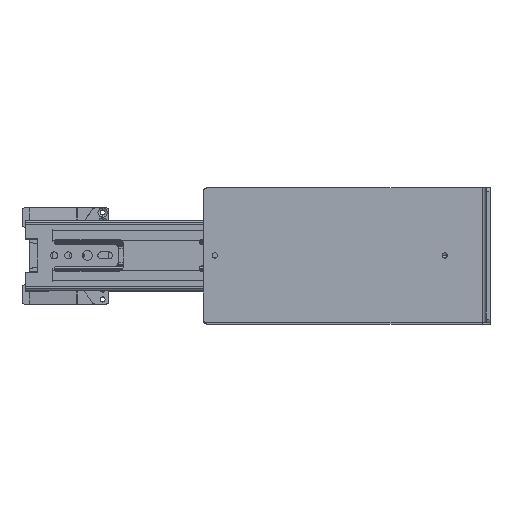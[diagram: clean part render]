
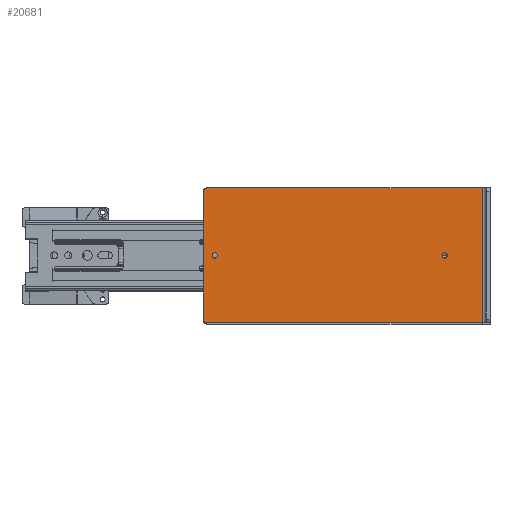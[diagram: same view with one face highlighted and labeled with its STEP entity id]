
A CAD part, top view. The second image highlights one B-rep face of the part: STEP entity #20681.
In plain terms, the highlighted planar face has unit normal (0, 0, 1).
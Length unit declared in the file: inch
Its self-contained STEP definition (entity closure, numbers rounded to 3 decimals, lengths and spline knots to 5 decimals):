
#5471=CARTESIAN_POINT('',(-1.22,1.63425,17.39237));
#5472=DIRECTION('',(0.,0.,1.));
#5473=DIRECTION('',(0.,1.,0.));
#5474=AXIS2_PLACEMENT_3D('',#5471,#5472,#5473);
#5476=DIRECTION('',(1.,0.,0.));
#5477=VECTOR('',#5476,7.05946);
#5478=CARTESIAN_POINT('',(-1.22,1.73425,17.39237));
#5479=LINE('',#5478,#5477);
#5480=DIRECTION('',(0.,1.,0.));
#5481=VECTOR('',#5480,3.4685);
#5482=CARTESIAN_POINT('',(5.83946,-1.73425,17.39237));
#5483=LINE('',#5482,#5481);
#5484=DIRECTION('',(-1.,0.,0.));
#5485=VECTOR('',#5484,7.05946);
#5486=CARTESIAN_POINT('',(5.83946,-1.73425,17.39237));
#5487=LINE('',#5486,#5485);
#5488=CARTESIAN_POINT('',(-1.22,-1.63425,17.39237));
#5489=DIRECTION('',(0.,0.,1.));
#5490=DIRECTION('',(-1.,0.,0.));
#5491=AXIS2_PLACEMENT_3D('',#5488,#5489,#5490);
#5493=DIRECTION('',(0.,1.,0.));
#5494=VECTOR('',#5493,3.2685);
#5495=CARTESIAN_POINT('',(-1.32,-1.63425,17.39237));
#5496=LINE('',#5495,#5494);
#5497=CARTESIAN_POINT('',(4.88,0.,17.39237));
#5498=DIRECTION('',(0.,0.,-1.));
#5499=DIRECTION('',(-1.,0.,0.));
#5500=AXIS2_PLACEMENT_3D('',#5497,#5498,#5499);
#5502=CARTESIAN_POINT('',(4.88,0.,17.39237));
#5503=DIRECTION('',(0.,0.,-1.));
#5504=DIRECTION('',(1.,0.,0.));
#5505=AXIS2_PLACEMENT_3D('',#5502,#5503,#5504);
#5507=CARTESIAN_POINT('',(-1.025,0.,17.39237));
#5508=DIRECTION('',(0.,0.,-1.));
#5509=DIRECTION('',(-1.,0.,0.));
#5510=AXIS2_PLACEMENT_3D('',#5507,#5508,#5509);
#5512=CARTESIAN_POINT('',(-1.025,0.,17.39237));
#5513=DIRECTION('',(0.,0.,-1.));
#5514=DIRECTION('',(1.,0.,0.));
#5515=AXIS2_PLACEMENT_3D('',#5512,#5513,#5514);
#12817=CARTESIAN_POINT('',(5.83946,1.73425,17.39237));
#12819=VERTEX_POINT('',#12817);
#12825=CARTESIAN_POINT('',(5.83946,-1.73425,17.39237));
#12827=VERTEX_POINT('',#12825);
#12880=CARTESIAN_POINT('',(-1.22,1.73425,17.39237));
#12881=VERTEX_POINT('',#12880);
#12882=CARTESIAN_POINT('',(-1.32,1.63425,17.39237));
#12883=VERTEX_POINT('',#12882);
#12888=CARTESIAN_POINT('',(-1.32,-1.63425,17.39237));
#12889=VERTEX_POINT('',#12888);
#12890=CARTESIAN_POINT('',(-1.22,-1.73425,17.39237));
#12891=VERTEX_POINT('',#12890);
#12896=CARTESIAN_POINT('',(4.812,0.,17.39237));
#12897=CARTESIAN_POINT('',(4.948,0.,17.39237));
#12898=VERTEX_POINT('',#12896);
#12899=VERTEX_POINT('',#12897);
#12904=CARTESIAN_POINT('',(-1.093,0.,17.39237));
#12905=CARTESIAN_POINT('',(-0.957,0.,17.39237));
#12906=VERTEX_POINT('',#12904);
#12907=VERTEX_POINT('',#12905);
#20652=CARTESIAN_POINT('',(2.68,0.,17.39237));
#20653=DIRECTION('',(0.,0.,-1.));
#20654=DIRECTION('',(1.,0.,0.));
#20655=AXIS2_PLACEMENT_3D('',#20652,#20653,#20654);
#20656=PLANE('',#20655);
#20658=ORIENTED_EDGE('',*,*,#20657,.F.);
#20660=ORIENTED_EDGE('',*,*,#20659,.T.);
#20662=ORIENTED_EDGE('',*,*,#20661,.F.);
#20664=ORIENTED_EDGE('',*,*,#20663,.T.);
#20665=ORIENTED_EDGE('',*,*,#20645,.F.);
#20666=ORIENTED_EDGE('',*,*,#20516,.T.);
#20667=EDGE_LOOP('',(#20658,#20660,#20662,#20664,#20665,#20666));
#20668=FACE_OUTER_BOUND('',#20667,.F.);
#20670=ORIENTED_EDGE('',*,*,#20669,.F.);
#20672=ORIENTED_EDGE('',*,*,#20671,.F.);
#20673=EDGE_LOOP('',(#20670,#20672));
#20674=FACE_BOUND('',#20673,.F.);
#20676=ORIENTED_EDGE('',*,*,#20675,.F.);
#20678=ORIENTED_EDGE('',*,*,#20677,.F.);
#20679=EDGE_LOOP('',(#20676,#20678));
#20680=FACE_BOUND('',#20679,.F.);
#20681=ADVANCED_FACE('',(#20668,#20674,#20680),#20656,.F.);
#5475=CIRCLE('',#5474,0.1);
#5492=CIRCLE('',#5491,0.1);
#5501=CIRCLE('',#5500,0.068);
#5506=CIRCLE('',#5505,0.068);
#5511=CIRCLE('',#5510,0.068);
#5516=CIRCLE('',#5515,0.068);
#20516=EDGE_CURVE('',#12889,#12883,#5496,.T.);
#20645=EDGE_CURVE('',#12889,#12891,#5492,.T.);
#20657=EDGE_CURVE('',#12881,#12883,#5475,.T.);
#20659=EDGE_CURVE('',#12881,#12819,#5479,.T.);
#20661=EDGE_CURVE('',#12827,#12819,#5483,.T.);
#20663=EDGE_CURVE('',#12827,#12891,#5487,.T.);
#20669=EDGE_CURVE('',#12898,#12899,#5501,.T.);
#20671=EDGE_CURVE('',#12899,#12898,#5506,.T.);
#20675=EDGE_CURVE('',#12906,#12907,#5511,.T.);
#20677=EDGE_CURVE('',#12907,#12906,#5516,.T.);
